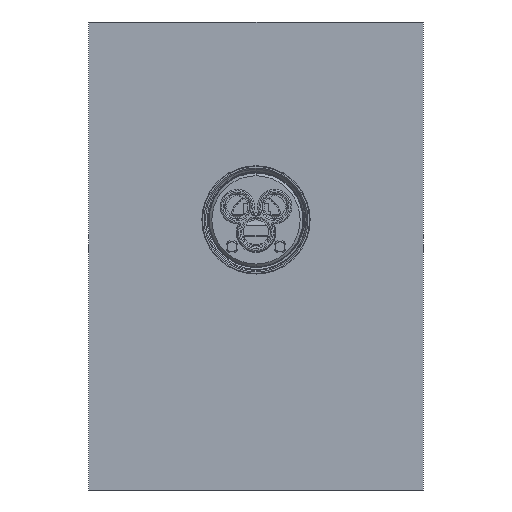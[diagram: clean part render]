
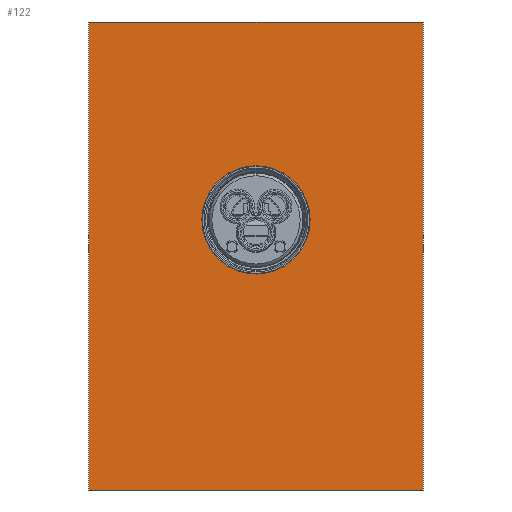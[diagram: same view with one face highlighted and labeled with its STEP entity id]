
A CAD part, front view. The second image highlights one B-rep face of the part: STEP entity #122.
In plain terms, the highlighted planar face has unit normal (0, -1, 0).
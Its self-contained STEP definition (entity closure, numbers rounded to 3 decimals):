
#1=DIRECTION('',(0.,0.,1.));
#2=VECTOR('',#1,175.);
#3=CARTESIAN_POINT('',(-62.5,0.,-101.));
#4=LINE('',#3,#2);
#5=DIRECTION('',(1.,0.,0.));
#6=VECTOR('',#5,125.);
#7=CARTESIAN_POINT('',(-62.5,0.,74.));
#8=LINE('',#7,#6);
#9=DIRECTION('',(0.,0.,-1.));
#10=VECTOR('',#9,175.);
#11=CARTESIAN_POINT('',(62.5,0.,74.));
#12=LINE('',#11,#10);
#13=DIRECTION('',(-1.,0.,0.));
#14=VECTOR('',#13,125.);
#15=CARTESIAN_POINT('',(62.5,0.,-101.));
#16=LINE('',#15,#14);
#17=CARTESIAN_POINT('',(0.,0.,0.));
#18=DIRECTION('',(0.,1.,0.));
#19=DIRECTION('',(1.,0.,0.));
#20=AXIS2_PLACEMENT_3D('',#17,#18,#19);
#22=CARTESIAN_POINT('',(0.,0.,0.));
#23=DIRECTION('',(0.,1.,0.));
#24=DIRECTION('',(-1.,0.,0.));
#25=AXIS2_PLACEMENT_3D('',#22,#23,#24);
#77=CARTESIAN_POINT('',(-62.5,0.,-101.));
#78=CARTESIAN_POINT('',(-62.5,0.,74.));
#79=VERTEX_POINT('',#77);
#80=VERTEX_POINT('',#78);
#81=CARTESIAN_POINT('',(62.5,0.,74.));
#82=CARTESIAN_POINT('',(62.5,0.,-101.));
#83=VERTEX_POINT('',#81);
#84=VERTEX_POINT('',#82);
#93=CARTESIAN_POINT('',(20.25,0.,0.));
#94=CARTESIAN_POINT('',(-20.25,0.,0.));
#95=VERTEX_POINT('',#93);
#96=VERTEX_POINT('',#94);
#101=CARTESIAN_POINT('',(0.,0.,-21.));
#102=DIRECTION('',(0.,1.,0.));
#103=DIRECTION('',(1.,0.,0.));
#104=AXIS2_PLACEMENT_3D('',#101,#102,#103);
#105=PLANE('',#104);
#107=ORIENTED_EDGE('',*,*,#106,.T.);
#109=ORIENTED_EDGE('',*,*,#108,.T.);
#111=ORIENTED_EDGE('',*,*,#110,.T.);
#113=ORIENTED_EDGE('',*,*,#112,.T.);
#114=EDGE_LOOP('',(#107,#109,#111,#113));
#115=FACE_OUTER_BOUND('',#114,.F.);
#117=ORIENTED_EDGE('',*,*,#116,.F.);
#119=ORIENTED_EDGE('',*,*,#118,.F.);
#120=EDGE_LOOP('',(#117,#119));
#121=FACE_BOUND('',#120,.F.);
#122=ADVANCED_FACE('',(#115,#121),#105,.F.);
#21=CIRCLE('',#20,20.25);
#26=CIRCLE('',#25,20.25);
#106=EDGE_CURVE('',#79,#80,#4,.T.);
#108=EDGE_CURVE('',#80,#83,#8,.T.);
#110=EDGE_CURVE('',#83,#84,#12,.T.);
#112=EDGE_CURVE('',#84,#79,#16,.T.);
#116=EDGE_CURVE('',#95,#96,#21,.T.);
#118=EDGE_CURVE('',#96,#95,#26,.T.);
